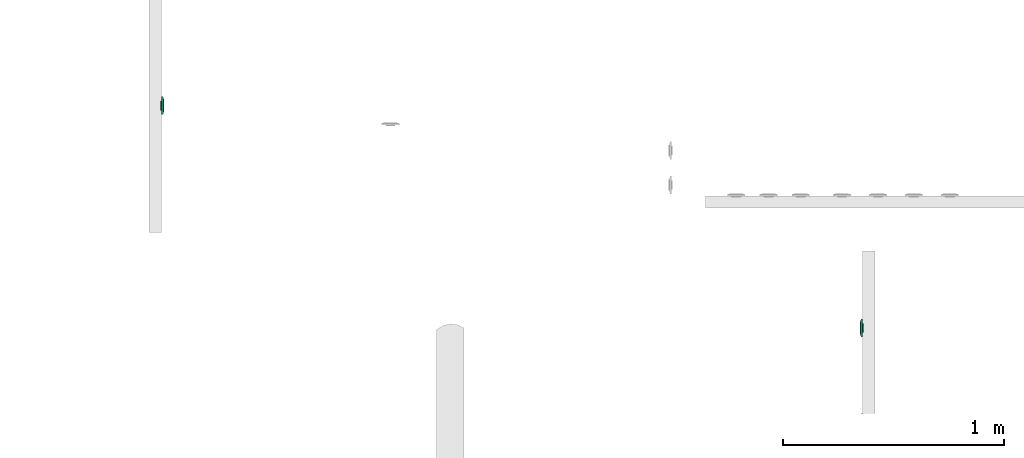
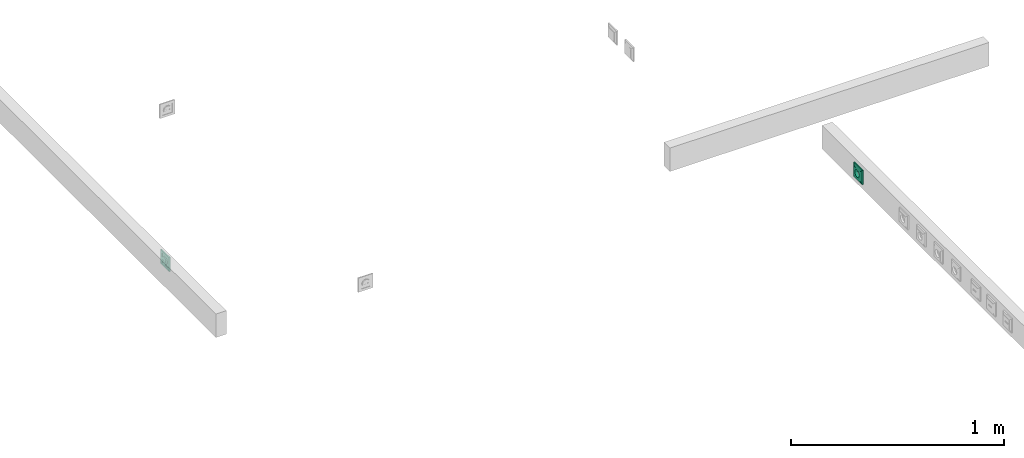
# One storey, part 23 of 166: 2 flow terminals.
"""IFC2X3 building model written with IfcOpenShell, lengths in metres."""

from ifc_helpers import new_model, entity, si_unit, converted_unit, derived_unit, direction, frame, origin, place, context, subcontext, project, spatial, face_set, surface_model, source, transform, mapped, type_object, type_shapes, element, save


model = new_model("IFC2X3")

# Units and contexts
model_context = context("Model", 3, precision=1e-05, world=origin(), true_north=direction((6.12303176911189e-17, 1.0)))
body_context = subcontext(model_context, "Body", "Model", "MODEL_VIEW")
ifc_project = project(units=[si_unit("LENGTHUNIT", "METRE"), si_unit("AREAUNIT", "SQUARE_METRE"), si_unit("VOLUMEUNIT", "CUBIC_METRE"), converted_unit("PLANEANGLEUNIT", "DEGREE", entity("IfcRatioMeasure", 0.0174532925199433), si_unit("PLANEANGLEUNIT", "RADIAN"), dimensions=[0, 0, 0, 0, 0, 0, 0]), si_unit("MASSUNIT", "GRAM", prefix="KILO"), derived_unit("MASSDENSITYUNIT", [(si_unit("MASSUNIT", "GRAM", prefix="KILO"), 1), (si_unit("LENGTHUNIT", "METRE"), -3)]), si_unit("TIMEUNIT", "SECOND"), si_unit("FREQUENCYUNIT", "HERTZ"), si_unit("THERMODYNAMICTEMPERATUREUNIT", "DEGREE_CELSIUS"), derived_unit("THERMALTRANSMITTANCEUNIT", [(si_unit("MASSUNIT", "GRAM", prefix="KILO"), 1), (si_unit("THERMODYNAMICTEMPERATUREUNIT", "KELVIN"), -1), (si_unit("TIMEUNIT", "SECOND"), -3)]), derived_unit("VOLUMETRICFLOWRATEUNIT", [(si_unit("LENGTHUNIT", "METRE"), 3), (si_unit("TIMEUNIT", "SECOND"), -1)]), si_unit("ELECTRICCURRENTUNIT", "AMPERE"), si_unit("ELECTRICVOLTAGEUNIT", "VOLT"), si_unit("POWERUNIT", "WATT"), si_unit("FORCEUNIT", "NEWTON"), si_unit("ILLUMINANCEUNIT", "LUX"), si_unit("LUMINOUSFLUXUNIT", "LUMEN"), si_unit("LUMINOUSINTENSITYUNIT", "CANDELA"), derived_unit("USERDEFINED", [(si_unit("MASSUNIT", "GRAM", prefix="KILO"), -1), (si_unit("LENGTHUNIT", "METRE"), -2), (si_unit("TIMEUNIT", "SECOND"), 3), (si_unit("LUMINOUSFLUXUNIT", "LUMEN"), 1)]), derived_unit("LINEARVELOCITYUNIT", [(si_unit("LENGTHUNIT", "METRE"), 1), (si_unit("TIMEUNIT", "SECOND"), -1)]), si_unit("PRESSUREUNIT", "PASCAL"), derived_unit("USERDEFINED", [(si_unit("LENGTHUNIT", "METRE"), -2), (si_unit("MASSUNIT", "GRAM", prefix="KILO"), 1), (si_unit("TIMEUNIT", "SECOND"), -2)])], contexts=[model_context])

# Site, building, storey
site_placement = place(None, origin())
site = spatial("IfcSite", under=ifc_project, at=site_placement, Name="Default", CompositionType="ELEMENT")
building_placement = place(site_placement, origin())
building = spatial("IfcBuilding", under=site, at=building_placement, CompositionType="ELEMENT")
storey_placement = place(building_placement, frame((0.0, 0.0, 4.27)))
storey = spatial("IfcBuildingStorey", under=building, at=storey_placement, Name="01", CompositionType="ELEMENT", Elevation=4.27)

# Flow terminals
light_fixture_type = type_object("IfcLightFixtureType", Name="PC IP20", PredefinedType="NOTDEFINED")
shared_shape = source(origin(), body_context, "Body", "SurfaceModel", [
    surface_model("IfcFaceBasedSurfaceModel", [(-0.00225000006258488, 0.0127499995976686, 0.00949633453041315), (0.0, 0.0104999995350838, 0.00949633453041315), (0.0, 0.0115376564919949, 0.0101656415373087), (0.0, 0.0139623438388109, 0.0101656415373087), (0.0, 0.0144589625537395, 0.00984531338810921), (0.0, 0.0121178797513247, 0.0102778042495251), (0.0, 0.0133821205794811, 0.0102778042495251), (0.0, 0.0127499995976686, 0.010399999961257), (0.0, 0.0149999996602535, 0.00949633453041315), (0.00225000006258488, 0.0127499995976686, 0.00949633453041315), (0.0, 0.0110410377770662, 0.00984531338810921), (0.0, 0.0127499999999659, 0.00949633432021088), (0.00225000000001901, 0.0127499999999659, 0.00949633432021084), (0.00217333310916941, 0.0121676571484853, 0.00949633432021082), (0.00194855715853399, 0.0116249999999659, 0.00949633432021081), (0.00159099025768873, 0.0111590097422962, 0.00949633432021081), (0.001125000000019, 0.010801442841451, 0.00949633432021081), (0.00058234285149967, 0.0105766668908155, 0.00949633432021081), (0.0, 0.0104999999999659, 0.00949633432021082), (-0.000582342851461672, 0.0105766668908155, 0.00949633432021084), (-0.001124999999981, 0.010801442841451, 0.00949633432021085), (-0.00159099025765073, 0.0111590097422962, 0.00949633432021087), (-0.00194855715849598, 0.011624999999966, 0.00949633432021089), (-0.0021733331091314, 0.0121676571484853, 0.00949633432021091), (-0.00224999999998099, 0.012749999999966, 0.00949633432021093), (-0.00217333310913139, 0.0133323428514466, 0.00949633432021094), (-0.00194855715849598, 0.013874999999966, 0.00949633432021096), (-0.00159099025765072, 0.0143409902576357, 0.00949633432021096), (-0.00112499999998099, 0.0146985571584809, 0.00949633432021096), (-0.00058234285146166, 0.0149233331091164, 0.00949633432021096), (0.0, 0.0149999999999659, 0.00949633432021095), (0.000582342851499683, 0.0149233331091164, 0.00949633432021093), (0.00112500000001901, 0.0146985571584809, 0.00949633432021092), (0.00159099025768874, 0.0143409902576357, 0.00949633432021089), (0.001948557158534, 0.0138749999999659, 0.00949633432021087), (0.00217333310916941, 0.0133323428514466, 0.00949633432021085), (0.00225000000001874, 0.0127499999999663, -0.00360000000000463), (0.00217333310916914, 0.0121676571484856, -0.00360000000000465), (0.00194855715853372, 0.0116249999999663, -0.00360000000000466), (0.00159099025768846, 0.0111590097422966, -0.00360000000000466), (0.00112500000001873, 0.0108014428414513, -0.00360000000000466), (0.000582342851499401, 0.0105766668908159, -0.00360000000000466), (0.0, 0.0104999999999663, -0.00360000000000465), (-0.000582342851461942, 0.0105766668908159, -0.00360000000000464), (-0.00112499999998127, 0.0108014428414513, -0.00360000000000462), (-0.001590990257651, 0.0111590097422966, -0.0036000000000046), (-0.00194855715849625, 0.0116249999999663, -0.00360000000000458), (-0.00217333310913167, 0.0121676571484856, -0.00360000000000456), (-0.00224999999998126, 0.0127499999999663, -0.00360000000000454), (-0.00217333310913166, 0.013332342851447, -0.00360000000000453), (-0.00194855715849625, 0.0138749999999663, -0.00360000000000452), (-0.00159099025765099, 0.014340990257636, -0.00360000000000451), (-0.00112499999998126, 0.0146985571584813, -0.00360000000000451), (-0.000582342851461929, 0.0149233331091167, -0.00360000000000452), (0.0, 0.0149999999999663, -0.00360000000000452), (0.000582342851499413, 0.0149233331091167, -0.00360000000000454), (0.00112500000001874, 0.0146985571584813, -0.00360000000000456), (0.00159099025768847, 0.014340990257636, -0.00360000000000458), (0.00194855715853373, 0.0138749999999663, -0.0036000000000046), (0.00217333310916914, 0.013332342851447, -0.00360000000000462), (0.0270000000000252, 0.026999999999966, 0.0113999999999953), (-0.0269999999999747, 0.026999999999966, 0.0113999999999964), (-0.0269999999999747, -0.0270000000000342, 0.0113999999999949), (0.0270000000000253, -0.0270000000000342, 0.0113999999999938), (-0.0199999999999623, 0.0, 0.0113999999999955), (-0.0193185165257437, -0.00517638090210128, 0.0113999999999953), (-0.0173205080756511, -0.0100000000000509, 0.0113999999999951), (-0.0141421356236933, -0.0141421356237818, 0.011399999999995), (-0.00999999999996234, -0.0173205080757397, 0.0113999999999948), (-0.00517638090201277, -0.0193185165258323, 0.0113999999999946), (0.0, -0.0200000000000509, 0.0113999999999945), (0.00517638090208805, -0.0193185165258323, 0.0113999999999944), (0.0100000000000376, -0.0173205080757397, 0.0113999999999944), (0.0141421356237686, -0.0141421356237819, 0.0113999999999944), (0.0173205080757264, -0.010000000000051, 0.0113999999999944), (0.0193185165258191, -0.00517638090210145, 0.0113999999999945), (0.0200000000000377, 0.0, 0.0113999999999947), (0.0193185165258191, 0.00517638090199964, 0.0113999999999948), (0.0173205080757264, 0.0099999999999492, 0.011399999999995), (0.0141421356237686, 0.0141421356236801, 0.0113999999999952), (0.0100000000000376, 0.0173205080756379, 0.0113999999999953), (0.00517638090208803, 0.0193185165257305, 0.0113999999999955), (0.0, 0.0199999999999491, 0.0113999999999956), (-0.00517638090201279, 0.0193185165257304, 0.0113999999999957), (-0.00999999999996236, 0.0173205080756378, 0.0113999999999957), (-0.0141421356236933, 0.01414213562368, 0.0113999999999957), (-0.0173205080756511, 0.00999999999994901, 0.0113999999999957), (-0.0193185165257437, 0.00517638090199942, 0.0113999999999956), (0.0270000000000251, 0.0269999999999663, 0.00199999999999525), (0.0270000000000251, -0.0270000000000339, 0.00199999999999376), (-0.0269999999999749, -0.0270000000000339, 0.00199999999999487), (-0.0269999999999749, 0.0269999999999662, 0.00199999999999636), (0.0210000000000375, 0.0, 0.00199999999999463), (0.0202844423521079, -0.00543519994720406, 0.00199999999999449), (0.0181865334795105, -0.0105000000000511, 0.0019999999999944), (0.0148492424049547, -0.0148492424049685, 0.00199999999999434), (0.0105000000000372, -0.0181865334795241, 0.00199999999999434), (0.0054351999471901, -0.0202844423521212, 0.00199999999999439), (0.0, -0.0210000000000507, 0.00199999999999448), (-0.00543519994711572, -0.020284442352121, 0.00199999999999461), (-0.0104999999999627, -0.0181865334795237, 0.00199999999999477), (-0.0148492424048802, -0.014849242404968, 0.00199999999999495), (-0.0181865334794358, -0.0105000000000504, 0.00199999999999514), (-0.020284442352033, -0.00543519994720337, 0.00199999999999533), (-0.0209999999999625, 0.0, 0.00199999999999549), (-0.0202844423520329, 0.0054351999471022, 0.00199999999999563), (-0.0181865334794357, 0.0104999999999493, 0.00199999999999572), (-0.01484924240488, 0.0148492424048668, 0.00199999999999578), (-0.0104999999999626, 0.0181865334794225, 0.00199999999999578), (-0.00543519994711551, 0.0202844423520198, 0.00199999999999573), (0.0, 0.0209999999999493, 0.00199999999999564), (0.00543519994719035, 0.0202844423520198, 0.00199999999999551), (0.0105000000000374, 0.0181865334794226, 0.00199999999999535), (0.0148492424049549, 0.0148492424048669, 0.00199999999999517), (0.0181865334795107, 0.0104999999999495, 0.00199999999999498), (0.0202844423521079, 0.00543519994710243, 0.00199999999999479), (0.0200000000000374, 0.0, -0.00360000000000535), (0.0193185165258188, -0.00517638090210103, -0.00360000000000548), (0.0173205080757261, -0.0100000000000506, -0.00360000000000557), (0.0141421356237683, -0.0141421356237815, -0.00360000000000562), (0.0100000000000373, -0.0173205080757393, -0.00360000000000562), (0.00517638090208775, -0.0193185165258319, -0.00360000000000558), (0.0, -0.0200000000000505, -0.00360000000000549), (-0.00517638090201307, -0.0193185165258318, -0.00360000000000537), (-0.00999999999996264, -0.0173205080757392, -0.00360000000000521), (-0.0141421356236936, -0.0141421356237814, -0.00360000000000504), (-0.0173205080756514, -0.0100000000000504, -0.00360000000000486), (-0.019318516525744, -0.00517638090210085, -0.00360000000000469), (-0.0199999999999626, 0.0, -0.00360000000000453), (-0.0193185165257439, 0.00517638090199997, -0.0036000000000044), (-0.0173205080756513, 0.00999999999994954, -0.00360000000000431), (-0.0141421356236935, 0.0141421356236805, -0.00360000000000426), (-0.00999999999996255, 0.0173205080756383, -0.00360000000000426), (-0.00517638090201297, 0.0193185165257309, -0.0036000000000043), (0.0, 0.0199999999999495, -0.00360000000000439), (0.00517638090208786, 0.0193185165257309, -0.00360000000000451), (0.0100000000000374, 0.0173205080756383, -0.00360000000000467), (0.0141421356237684, 0.0141421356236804, -0.00360000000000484), (0.0173205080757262, 0.0099999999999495, -0.00360000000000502), (0.0193185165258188, 0.00517638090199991, -0.00360000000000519), (-0.0123499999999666, 0.0, -0.00360000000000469), (-0.0122562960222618, -0.000711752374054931, -0.00360000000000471), (-0.0119815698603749, -0.00137500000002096, -0.00360000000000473), (-0.0115445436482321, -0.00194454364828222, -0.00360000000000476), (-0.0109749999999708, -0.00238156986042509, -0.00360000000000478), (-0.0103117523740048, -0.00265629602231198, -0.0036000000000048), (-0.00959999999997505, -0.00275000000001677, -0.00360000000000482), (-0.0088882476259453, -0.00265629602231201, -0.00360000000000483), (-0.00822499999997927, -0.00238156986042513, -0.00360000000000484), (-0.00765545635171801, -0.00194454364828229, -0.00360000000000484), (-0.00721843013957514, -0.00137500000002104, -0.00360000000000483), (-0.00694370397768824, -0.000711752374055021, -0.00360000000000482), (-0.00684999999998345, 0.0, -0.0036000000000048), (-0.00694370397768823, 0.000711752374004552, -0.00360000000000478), (-0.00721843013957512, 0.00137499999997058, -0.00360000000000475), (-0.00765545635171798, 0.00194454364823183, -0.00360000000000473), (-0.00822499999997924, 0.00238156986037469, -0.0036000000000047), (-0.00888824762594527, 0.00265629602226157, -0.00360000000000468), (-0.00959999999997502, 0.00274999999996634, -0.00360000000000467), (-0.0103117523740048, 0.00265629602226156, -0.00360000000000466), (-0.0109749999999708, 0.00238156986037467, -0.00360000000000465), (-0.011544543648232, 0.00194454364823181, -0.00360000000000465), (-0.0119815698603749, 0.00137499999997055, -0.00360000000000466), (-0.0122562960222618, 0.000711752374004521, -0.00360000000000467), (0.00685000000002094, 0.0, -0.00360000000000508), (0.0069437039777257, -0.00071175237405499, -0.0036000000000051), (0.00721843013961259, -0.00137500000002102, -0.00360000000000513), (0.00765545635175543, -0.00194454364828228, -0.00360000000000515), (0.00822500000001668, -0.00238156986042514, -0.00360000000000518), (0.00888824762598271, -0.00265629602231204, -0.0036000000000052), (0.00960000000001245, -0.00275000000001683, -0.00360000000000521), (0.0103117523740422, -0.00265629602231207, -0.00360000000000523), (0.0109750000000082, -0.00238156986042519, -0.00360000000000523), (0.0115445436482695, -0.00194454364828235, -0.00360000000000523), (0.0119815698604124, -0.0013750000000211, -0.00360000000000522), (0.0122562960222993, -0.00071175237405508, -0.00360000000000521), (0.012350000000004, 0.0, -0.00360000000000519), (0.0122562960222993, 0.000711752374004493, -0.00360000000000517), (0.0119815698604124, 0.00137499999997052, -0.00360000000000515), (0.0115445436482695, 0.00194454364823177, -0.00360000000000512), (0.0109750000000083, 0.00238156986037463, -0.0036000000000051), (0.0103117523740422, 0.00265629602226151, -0.00360000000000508), (0.00960000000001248, 0.00274999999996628, -0.00360000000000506), (0.00888824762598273, 0.0026562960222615, -0.00360000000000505), (0.0082250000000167, 0.00238156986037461, -0.00360000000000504), (0.00765545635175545, 0.00194454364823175, -0.00360000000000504), (0.0072184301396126, 0.00137499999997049, -0.00360000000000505), (0.00694370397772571, 0.000711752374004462, -0.00360000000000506), (0.0210000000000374, 0.0, -0.00460000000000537), (0.0202844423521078, -0.00543519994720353, -0.00460000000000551), (0.0181865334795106, -0.0105000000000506, -0.0046000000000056), (0.0148492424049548, -0.0148492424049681, -0.00460000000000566), (0.0105000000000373, -0.0181865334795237, -0.00460000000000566), (0.00543519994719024, -0.0202844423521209, -0.00460000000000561), (0.0, -0.0210000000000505, -0.00460000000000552), (-0.00543519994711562, -0.0202844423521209, -0.00460000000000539), (-0.0104999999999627, -0.0181865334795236, -0.00460000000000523), (-0.0148492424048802, -0.0148492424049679, -0.00460000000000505), (-0.0181865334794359, -0.0105000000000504, -0.00460000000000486), (-0.0202844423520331, -0.00543519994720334, -0.00460000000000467), (-0.0209999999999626, 0.0, -0.00460000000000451), (-0.020284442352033, 0.00543519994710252, -0.00460000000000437), (-0.0181865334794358, 0.0104999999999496, -0.00460000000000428), (-0.0148492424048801, 0.0148492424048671, -0.00460000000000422), (-0.0104999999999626, 0.0181865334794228, -0.00460000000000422), (-0.00543519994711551, 0.02028444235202, -0.00460000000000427), (0.0, 0.0209999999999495, -0.00460000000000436), (0.00543519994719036, 0.02028444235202, -0.00460000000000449), (0.0105000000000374, 0.0181865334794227, -0.00460000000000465), (0.0148492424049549, 0.014849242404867, -0.00460000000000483), (0.0181865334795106, 0.0104999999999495, -0.00460000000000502), (0.0202844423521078, 0.00543519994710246, -0.00460000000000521), (-0.00684999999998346, 0.0, -0.0046000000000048), (-0.00694370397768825, 0.000711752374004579, -0.00460000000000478), (-0.00721843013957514, 0.00137499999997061, -0.00460000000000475), (-0.007655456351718, 0.00194454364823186, -0.00460000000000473), (-0.00822499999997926, 0.00238156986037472, -0.0046000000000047), (-0.00888824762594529, 0.0026562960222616, -0.00460000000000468), (-0.00959999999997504, 0.00274999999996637, -0.00460000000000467), (-0.0103117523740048, 0.00265629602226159, -0.00460000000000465), (-0.0109749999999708, 0.0023815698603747, -0.00460000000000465), (-0.0115445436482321, 0.00194454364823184, -0.00460000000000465), (-0.0119815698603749, 0.00137499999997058, -0.00460000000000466), (-0.0122562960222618, 0.000711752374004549, -0.00460000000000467), (-0.0123499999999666, 0.0, -0.00460000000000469), (-0.0122562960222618, -0.000711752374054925, -0.00460000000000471), (-0.0119815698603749, -0.00137500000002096, -0.00460000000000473), (-0.0115445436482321, -0.00194454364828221, -0.00460000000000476), (-0.0109749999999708, -0.00238156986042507, -0.00460000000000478), (-0.0103117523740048, -0.00265629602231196, -0.0046000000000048), (-0.00959999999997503, -0.00275000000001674, -0.00460000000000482), (-0.00888824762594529, -0.00265629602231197, -0.00460000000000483), (-0.00822499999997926, -0.00238156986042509, -0.00460000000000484), (-0.007655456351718, -0.00194454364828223, -0.00460000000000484), (-0.00721843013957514, -0.00137500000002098, -0.00460000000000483), (-0.00694370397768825, -0.000711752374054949, -0.00460000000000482), (0.012350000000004, 0.0, -0.00460000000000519), (0.0122562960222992, 0.000711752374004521, -0.00460000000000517), (0.0119815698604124, 0.00137499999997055, -0.00460000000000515), (0.0115445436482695, 0.0019445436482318, -0.00460000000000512), (0.0109750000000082, 0.00238156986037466, -0.0046000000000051), (0.0103117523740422, 0.00265629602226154, -0.00460000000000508), (0.00960000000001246, 0.00274999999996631, -0.00460000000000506), (0.00888824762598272, 0.00265629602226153, -0.00460000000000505), (0.00822500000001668, 0.00238156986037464, -0.00460000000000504), (0.00765545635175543, 0.00194454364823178, -0.00460000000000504), (0.00721843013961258, 0.00137499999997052, -0.00460000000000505), (0.00694370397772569, 0.00071175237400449, -0.00460000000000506), (0.00685000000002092, 0.0, -0.00460000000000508), (0.00694370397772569, -0.000711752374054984, -0.0046000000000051), (0.00721843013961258, -0.00137500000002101, -0.00460000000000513), (0.00765545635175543, -0.00194454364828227, -0.00460000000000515), (0.00822500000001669, -0.00238156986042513, -0.00460000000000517), (0.00888824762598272, -0.00265629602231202, -0.0046000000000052), (0.00960000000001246, -0.0027500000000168, -0.00460000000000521), (0.0103117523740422, -0.00265629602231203, -0.00460000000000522), (0.0109750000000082, -0.00238156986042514, -0.00460000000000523), (0.0115445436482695, -0.00194454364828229, -0.00460000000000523), (0.0119815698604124, -0.00137500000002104, -0.00460000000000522), (0.0122562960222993, -0.000711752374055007, -0.00460000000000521), (0.040350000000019, 0.0403499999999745, 0.00659999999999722), (0.040350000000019, -0.0403500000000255, 0.00659999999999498), (-0.0403499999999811, -0.0403500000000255, 0.00659999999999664), (-0.0403499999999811, 0.0403499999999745, 0.00659999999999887), (0.027000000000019, 0.0269999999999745, 0.00659999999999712), (-0.0269999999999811, 0.0269999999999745, 0.00659999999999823), (-0.026999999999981, -0.0270000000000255, 0.00659999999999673), (0.027000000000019, -0.0270000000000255, 0.00659999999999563), (0.027000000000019, 0.0269999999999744, 0.0103999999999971), (-0.026999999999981, 0.0269999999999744, 0.0103999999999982), (-0.026999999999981, -0.0270000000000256, 0.0103999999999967), (0.027000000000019, -0.0270000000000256, 0.0103999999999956), (0.040350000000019, 0.0403499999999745, 0.00659999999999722), (0.040350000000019, -0.0403500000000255, 0.00659999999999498), (-0.0403499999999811, -0.0403500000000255, 0.00659999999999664), (-0.0403499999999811, 0.0403499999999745, 0.00659999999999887), (-0.0269999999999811, 0.0269999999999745, 0.00659999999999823), (-0.0269999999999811, -0.0270000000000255, 0.00659999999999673), (0.0270000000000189, -0.0270000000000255, 0.00659999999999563), (0.0270000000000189, 0.0269999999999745, 0.00659999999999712), (0.0403500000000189, 0.0403499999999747, 0.0), (0.0403500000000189, -0.0403500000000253, 0.0), (-0.0403499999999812, -0.0403500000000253, 0.0), (-0.0403499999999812, 0.0403499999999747, 0.0), (0.0270000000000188, 0.0269999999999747, 0.0), (-0.0269999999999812, 0.0269999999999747, 0.0), (-0.0269999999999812, -0.0270000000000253, 0.0), (0.0270000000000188, -0.0270000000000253, 0.0)], [face_set([[[0, 1, 2]], [[3, 4, 2, 5]], [[6, 3, 5, 7]], [[2, 4, 0]], [[4, 8, 0]], [[3, 9, 8]], [[1, 9, 10]], [[2, 3, 6, 7]], [[3, 10, 9]], [[2, 10, 3]], [[11, 1, 0, 8]], [[11, 8, 9, 1]]]), face_set([[[12, 13, 14, 15, 16, 17, 18, 19, 20, 21, 22, 23, 24, 25, 26, 27, 28, 29, 30, 31, 32, 33, 34, 35]], [[36, 37, 38, 39, 40, 41, 42, 43, 44, 45, 46, 47, 48, 49, 50, 51, 52, 53, 54, 55, 56, 57, 58, 59]], [[48, 47, 23, 24]], [[47, 46, 22, 23]], [[45, 44, 20, 21]], [[46, 45, 21, 22]], [[44, 43, 19, 20]], [[18, 19, 43, 42]], [[42, 41, 17, 18]], [[41, 40, 16, 17]], [[39, 38, 14, 15]], [[40, 39, 15, 16]], [[38, 37, 13, 14]], [[12, 13, 37, 36]], [[36, 59, 35, 12]], [[59, 58, 34, 35]], [[57, 56, 32, 33]], [[58, 57, 33, 34]], [[56, 55, 31, 32]], [[30, 31, 55, 54]], [[54, 53, 29, 30]], [[53, 52, 28, 29]], [[51, 50, 26, 27]], [[52, 51, 27, 28]], [[50, 49, 25, 26]], [[24, 25, 49, 48]]]), face_set([[[60, 61, 62, 63], [64, 65, 66, 67, 68, 69, 70, 71, 72, 73, 74, 75, 76, 77, 78, 79, 80, 81, 82, 83, 84, 85, 86, 87]], [[88, 89, 90, 91], [92, 93, 94, 95, 96, 97, 98, 99, 100, 101, 102, 103, 104, 105, 106, 107, 108, 109, 110, 111, 112, 113, 114, 115]], [[61, 60, 88, 91]], [[62, 61, 91, 90]], [[63, 62, 90, 89]], [[60, 63, 89, 88]], [[116, 117, 118, 119, 120, 121, 122, 123, 124, 125, 126, 127, 128, 129, 130, 131, 132, 133, 134, 135, 136, 137, 138, 139], [140, 141, 142, 143, 144, 145, 146, 147, 148, 149, 150, 151, 152, 153, 154, 155, 156, 157, 158, 159, 160, 161, 162, 163], [164, 165, 166, 167, 168, 169, 170, 171, 172, 173, 174, 175, 176, 177, 178, 179, 180, 181, 182, 183, 184, 185, 186, 187]], [[64, 128, 127, 65]], [[65, 127, 126, 66]], [[67, 125, 124, 68]], [[66, 126, 125, 67]], [[68, 124, 123, 69]], [[122, 70, 69, 123]], [[70, 122, 121, 71]], [[71, 121, 120, 72]], [[73, 119, 118, 74]], [[72, 120, 119, 73]], [[74, 118, 117, 75]], [[116, 76, 75, 117]], [[76, 116, 139, 77]], [[77, 139, 138, 78]], [[79, 137, 136, 80]], [[78, 138, 137, 79]], [[80, 136, 135, 81]], [[134, 82, 81, 135]], [[82, 134, 133, 83]], [[83, 133, 132, 84]], [[84, 132, 131, 85]], [[85, 131, 130, 86]], [[130, 129, 87, 86]], [[64, 87, 129, 128]], [[188, 189, 190, 191, 192, 193, 194, 195, 196, 197, 198, 199, 200, 201, 202, 203, 204, 205, 206, 207, 208, 209, 210, 211], [212, 213, 214, 215, 216, 217, 218, 219, 220, 221, 222, 223, 224, 225, 226, 227, 228, 229, 230, 231, 232, 233, 234, 235], [236, 237, 238, 239, 240, 241, 242, 243, 244, 245, 246, 247, 248, 249, 250, 251, 252, 253, 254, 255, 256, 257, 258, 259]], [[200, 199, 103, 104]], [[199, 198, 102, 103]], [[197, 196, 100, 101]], [[198, 197, 101, 102]], [[196, 195, 99, 100]], [[98, 99, 195, 194]], [[194, 193, 97, 98]], [[193, 192, 96, 97]], [[191, 190, 94, 95]], [[192, 191, 95, 96]], [[190, 189, 93, 94]], [[92, 93, 189, 188]], [[188, 211, 115, 92]], [[211, 210, 114, 115]], [[209, 208, 112, 113]], [[210, 209, 113, 114]], [[208, 207, 111, 112]], [[110, 111, 207, 206]], [[206, 205, 109, 110]], [[205, 204, 108, 109]], [[203, 202, 106, 107]], [[204, 203, 107, 108]], [[202, 201, 105, 106]], [[104, 105, 201, 200]], [[141, 225, 226, 142]], [[140, 224, 225, 141]], [[144, 228, 229, 145]], [[143, 227, 228, 144]], [[142, 226, 227, 143]], [[230, 146, 145, 229]], [[149, 233, 232, 148]], [[148, 232, 231, 147]], [[152, 212, 235, 151]], [[151, 235, 234, 150]], [[150, 234, 233, 149]], [[146, 230, 231, 147]], [[154, 214, 213, 153]], [[153, 213, 212, 152]], [[157, 217, 216, 156]], [[156, 216, 215, 155]], [[155, 215, 214, 154]], [[218, 158, 157, 217]], [[160, 220, 221, 161]], [[159, 219, 220, 160]], [[163, 223, 224, 140]], [[162, 222, 223, 163]], [[161, 221, 222, 162]], [[158, 218, 219, 159]], [[166, 250, 249, 165]], [[165, 249, 248, 164]], [[169, 253, 252, 168]], [[168, 252, 251, 167]], [[167, 251, 250, 166]], [[254, 170, 169, 253]], [[172, 256, 257, 173]], [[171, 255, 256, 172]], [[175, 259, 236, 176]], [[174, 258, 259, 175]], [[173, 257, 258, 174]], [[170, 254, 255, 171]], [[177, 237, 238, 178]], [[176, 236, 237, 177]], [[180, 240, 241, 181]], [[179, 239, 240, 180]], [[178, 238, 239, 179]], [[242, 182, 181, 241]], [[185, 245, 244, 184]], [[184, 244, 243, 183]], [[164, 248, 247, 187]], [[187, 247, 246, 186]], [[186, 246, 245, 185]], [[182, 242, 243, 183]]]), face_set([[[260, 261, 262, 263], [264, 265, 266, 267]], [[260, 268, 269, 263]], [[263, 269, 270, 262]], [[262, 270, 271, 261]], [[261, 271, 268, 260]], [[264, 265, 269, 268]], [[265, 266, 270, 269]], [[266, 267, 271, 270]], [[268, 271, 267, 264]]]), face_set([[[272, 273, 274, 275], [276, 277, 278, 279]], [[280, 281, 282, 283], [284, 285, 286, 287]], [[275, 272, 280, 283]], [[274, 275, 283, 282]], [[273, 274, 282, 281]], [[272, 273, 281, 280]], [[284, 285, 276, 279]], [[285, 286, 277, 276]], [[286, 287, 278, 277]], [[279, 278, 287, 284]]])]),
])
type_shapes(light_fixture_type, [shared_shape])
for number, where, z_axis, x_axis in (
    (1, (29.3537440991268, -191.126554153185, 4.70800000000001), (-1.0, 0.0, 0.0), (0.0, -1.0, 0.0)),
    (2, (26.1797436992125, -190.119663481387, 4.70800000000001), (1.0, 0.0, 0.0), (0.0, 1.0, 0.0)),
):
    element("IfcFlowTerminal", number, at=place(building_placement, frame(where, z_axis=z_axis, x_axis=x_axis)), inside=storey, type_object=light_fixture_type, Name="INT Prise de courant:PC IP20", ObjectType="INT Prise de courant:PC IP20", context=body_context, shape_type="MappedRepresentation", body=[
        mapped(shared_shape, transform((0.0, 0.0, 0.0), scale=1.0)),
    ])

save(model, "model.ifc")
